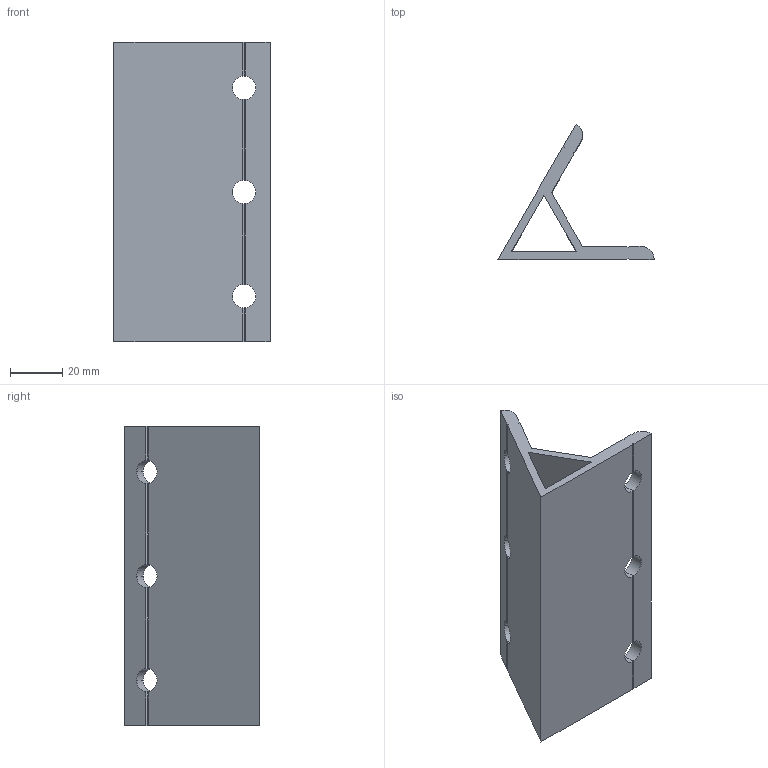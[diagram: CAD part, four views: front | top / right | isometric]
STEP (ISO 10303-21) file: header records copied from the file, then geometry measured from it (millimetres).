
FILE_DESCRIPTION (( 'STEP AP203' ), '1' );
FILE_NAME ('DALV60115-8.STEP', '2020-10-14T02:28:43', ( '' ), ( '' ), 'SwSTEP 2.0', 'SolidWorks 2017', '' );
FILE_SCHEMA (( 'CONFIG_CONTROL_DESIGN' ));
Length unit declared in the file: millimetre
Products named in the file (1): DALV60115-8
Bounding box: 60 x 51.96 x 115 mm (x, y, z)
Volume: 57981.2 mm3; surface area: 33413.2 mm2
Topology: 1 solids, 1 shells, 60 faces, 198 edges, 128 vertices
Faces by surface type: plane 46, cylinder 14
Entity records: 2251 total; most frequent: CARTESIAN_POINT 531, ORIENTED_EDGE 396, DIRECTION 312, EDGE_CURVE 198, VERTEX_POINT 128, LINE 110, VECTOR 110, AXIS2_PLACEMENT_3D 101
